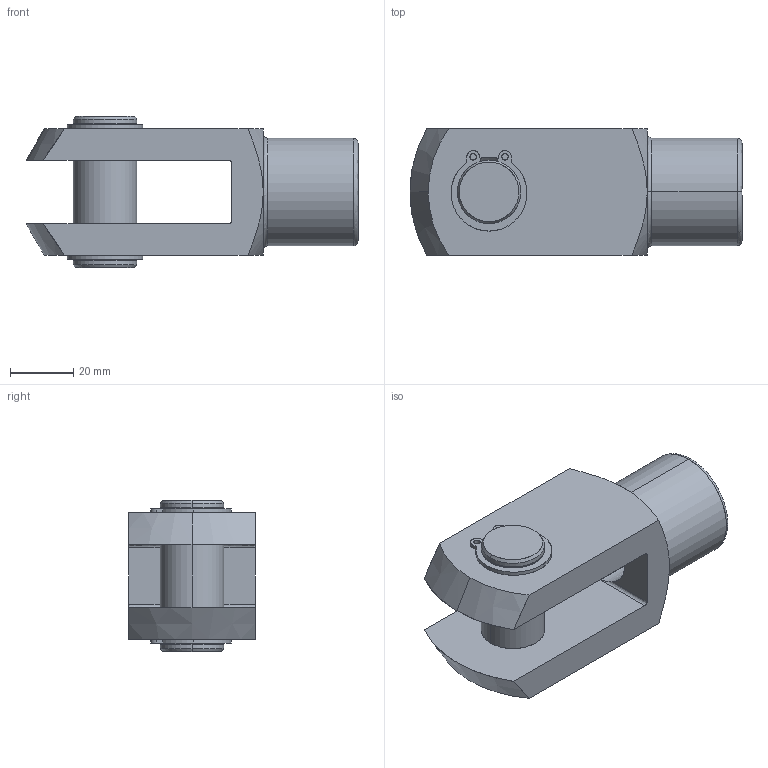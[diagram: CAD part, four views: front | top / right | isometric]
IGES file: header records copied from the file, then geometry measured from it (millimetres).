
Start section: SolidWorks IGES file using analytic representation for surfaces
Global section: file name: C:\Documents and Settings\IANO\My Documents\Wix and Auto CAD Work\CAD Models\Parametric Models\Wix Models\60000\65614_v2\65614_v2_IGES\65614.W0205.igs; native system: SolidWorks 2009; preprocessor: SolidWorks 2009; author: IANO; date: 140118.104157; units: millimetre
Bounding box: 105 x 40 x 48 mm (x, y, z)
Surface area: 26089.9 mm2 (no closed solid volume)
Topology: 0 solids, 0 shells, 95 faces, 1876 edges, 1876 vertices
Faces by surface type: revolution 63, bspline 32
